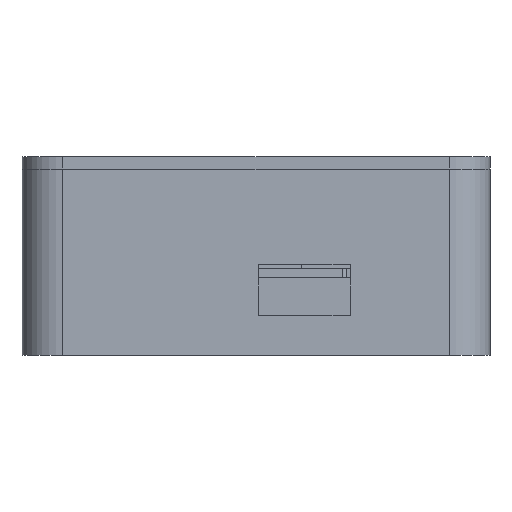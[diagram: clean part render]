
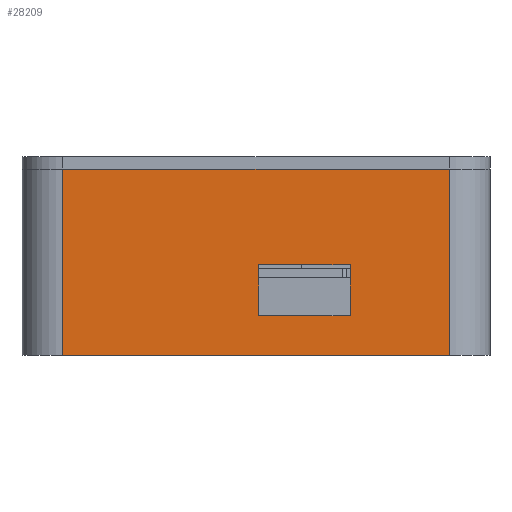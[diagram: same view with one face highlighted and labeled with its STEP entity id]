
A CAD part, front view. The second image highlights one B-rep face of the part: STEP entity #28209.
In plain terms, the highlighted planar face has unit normal (0, -1, 0).
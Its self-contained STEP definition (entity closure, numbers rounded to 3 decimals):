
#74 = PLANE('',#75);
#75 = AXIS2_PLACEMENT_3D('',#76,#77,#78);
#76 = CARTESIAN_POINT('',(-46.,-56.,36.6));
#77 = DIRECTION('',(0.,0.,1.));
#78 = DIRECTION('',(1.,0.,0.));
#102 = CYLINDRICAL_SURFACE('',#103,8.);
#103 = AXIS2_PLACEMENT_3D('',#104,#105,#106);
#104 = CARTESIAN_POINT('',(-38.,-48.,0.));
#105 = DIRECTION('',(0.,0.,1.));
#106 = DIRECTION('',(-1.,-0.,0.));
#130 = PLANE('',#131);
#131 = AXIS2_PLACEMENT_3D('',#132,#133,#134);
#132 = CARTESIAN_POINT('',(-46.,-56.,0.));
#133 = DIRECTION('',(0.,0.,1.));
#134 = DIRECTION('',(1.,0.,0.));
#1727 = VERTEX_POINT('',#1728);
#1728 = CARTESIAN_POINT('',(-38.,-56.,36.6));
#1750 = EDGE_CURVE('',#1727,#1751,#1753,.T.);
#1751 = VERTEX_POINT('',#1752);
#1752 = CARTESIAN_POINT('',(38.,-56.,36.6));
#1753 = SURFACE_CURVE('',#1754,(#1758,#1765),.PCURVE_S1.);
#1754 = LINE('',#1755,#1756);
#1755 = CARTESIAN_POINT('',(-46.,-56.,36.6));
#1756 = VECTOR('',#1757,1.);
#1757 = DIRECTION('',(1.,0.,0.));
#1758 = PCURVE('',#74,#1759);
#1759 = DEFINITIONAL_REPRESENTATION('',(#1760),#1764);
#1760 = LINE('',#1761,#1762);
#1761 = CARTESIAN_POINT('',(0.,0.));
#1762 = VECTOR('',#1763,1.);
#1763 = DIRECTION('',(1.,0.));
#1764 = ( GEOMETRIC_REPRESENTATION_CONTEXT(2) 
PARAMETRIC_REPRESENTATION_CONTEXT() REPRESENTATION_CONTEXT('2D SPACE',''
  ) );
#1765 = PCURVE('',#1766,#1771);
#1766 = PLANE('',#1767);
#1767 = AXIS2_PLACEMENT_3D('',#1768,#1769,#1770);
#1768 = CARTESIAN_POINT('',(-46.,-56.,0.));
#1769 = DIRECTION('',(0.,1.,0.));
#1770 = DIRECTION('',(0.,0.,1.));
#1771 = DEFINITIONAL_REPRESENTATION('',(#1772),#1776);
#1772 = LINE('',#1773,#1774);
#1773 = CARTESIAN_POINT('',(36.6,0.));
#1774 = VECTOR('',#1775,1.);
#1775 = DIRECTION('',(0.,1.));
#1776 = ( GEOMETRIC_REPRESENTATION_CONTEXT(2) 
PARAMETRIC_REPRESENTATION_CONTEXT() REPRESENTATION_CONTEXT('2D SPACE',''
  ) );
#1799 = CYLINDRICAL_SURFACE('',#1800,8.);
#1800 = AXIS2_PLACEMENT_3D('',#1801,#1802,#1803);
#1801 = CARTESIAN_POINT('',(38.,-48.,0.));
#1802 = DIRECTION('',(0.,0.,1.));
#1803 = DIRECTION('',(1.,0.,-0.));
#2784 = VERTEX_POINT('',#2785);
#2785 = CARTESIAN_POINT('',(-38.,-56.,0.));
#2807 = EDGE_CURVE('',#2784,#1727,#2808,.T.);
#2808 = SURFACE_CURVE('',#2809,(#2813,#2820),.PCURVE_S1.);
#2809 = LINE('',#2810,#2811);
#2810 = CARTESIAN_POINT('',(-38.,-56.,0.));
#2811 = VECTOR('',#2812,1.);
#2812 = DIRECTION('',(0.,0.,1.));
#2813 = PCURVE('',#102,#2814);
#2814 = DEFINITIONAL_REPRESENTATION('',(#2815),#2819);
#2815 = LINE('',#2816,#2817);
#2816 = CARTESIAN_POINT('',(1.571,0.));
#2817 = VECTOR('',#2818,1.);
#2818 = DIRECTION('',(0.,1.));
#2819 = ( GEOMETRIC_REPRESENTATION_CONTEXT(2) 
PARAMETRIC_REPRESENTATION_CONTEXT() REPRESENTATION_CONTEXT('2D SPACE',''
  ) );
#2820 = PCURVE('',#1766,#2821);
#2821 = DEFINITIONAL_REPRESENTATION('',(#2822),#2826);
#2822 = LINE('',#2823,#2824);
#2823 = CARTESIAN_POINT('',(0.,8.));
#2824 = VECTOR('',#2825,1.);
#2825 = DIRECTION('',(1.,0.));
#2826 = ( GEOMETRIC_REPRESENTATION_CONTEXT(2) 
PARAMETRIC_REPRESENTATION_CONTEXT() REPRESENTATION_CONTEXT('2D SPACE',''
  ) );
#2889 = EDGE_CURVE('',#2784,#2890,#2892,.T.);
#2890 = VERTEX_POINT('',#2891);
#2891 = CARTESIAN_POINT('',(38.,-56.,0.));
#2892 = SURFACE_CURVE('',#2893,(#2897,#2904),.PCURVE_S1.);
#2893 = LINE('',#2894,#2895);
#2894 = CARTESIAN_POINT('',(-46.,-56.,0.));
#2895 = VECTOR('',#2896,1.);
#2896 = DIRECTION('',(1.,0.,0.));
#2897 = PCURVE('',#130,#2898);
#2898 = DEFINITIONAL_REPRESENTATION('',(#2899),#2903);
#2899 = LINE('',#2900,#2901);
#2900 = CARTESIAN_POINT('',(0.,0.));
#2901 = VECTOR('',#2902,1.);
#2902 = DIRECTION('',(1.,0.));
#2903 = ( GEOMETRIC_REPRESENTATION_CONTEXT(2) 
PARAMETRIC_REPRESENTATION_CONTEXT() REPRESENTATION_CONTEXT('2D SPACE',''
  ) );
#2904 = PCURVE('',#1766,#2905);
#2905 = DEFINITIONAL_REPRESENTATION('',(#2906),#2910);
#2906 = LINE('',#2907,#2908);
#2907 = CARTESIAN_POINT('',(0.,0.));
#2908 = VECTOR('',#2909,1.);
#2909 = DIRECTION('',(0.,1.));
#2910 = ( GEOMETRIC_REPRESENTATION_CONTEXT(2) 
PARAMETRIC_REPRESENTATION_CONTEXT() REPRESENTATION_CONTEXT('2D SPACE',''
  ) );
#28209 = ADVANCED_FACE('',(#28210,#28236),#1766,.F.);
#28210 = FACE_BOUND('',#28211,.F.);
#28211 = EDGE_LOOP('',(#28212,#28213,#28214,#28215));
#28212 = ORIENTED_EDGE('',*,*,#2889,.F.);
#28213 = ORIENTED_EDGE('',*,*,#2807,.T.);
#28214 = ORIENTED_EDGE('',*,*,#1750,.T.);
#28215 = ORIENTED_EDGE('',*,*,#28216,.F.);
#28216 = EDGE_CURVE('',#2890,#1751,#28217,.T.);
#28217 = SURFACE_CURVE('',#28218,(#28222,#28229),.PCURVE_S1.);
#28218 = LINE('',#28219,#28220);
#28219 = CARTESIAN_POINT('',(38.,-56.,0.));
#28220 = VECTOR('',#28221,1.);
#28221 = DIRECTION('',(0.,0.,1.));
#28222 = PCURVE('',#1766,#28223);
#28223 = DEFINITIONAL_REPRESENTATION('',(#28224),#28228);
#28224 = LINE('',#28225,#28226);
#28225 = CARTESIAN_POINT('',(0.,84.));
#28226 = VECTOR('',#28227,1.);
#28227 = DIRECTION('',(1.,0.));
#28228 = ( GEOMETRIC_REPRESENTATION_CONTEXT(2) 
PARAMETRIC_REPRESENTATION_CONTEXT() REPRESENTATION_CONTEXT('2D SPACE',''
  ) );
#28229 = PCURVE('',#1799,#28230);
#28230 = DEFINITIONAL_REPRESENTATION('',(#28231),#28235);
#28231 = LINE('',#28232,#28233);
#28232 = CARTESIAN_POINT('',(-1.571,0.));
#28233 = VECTOR('',#28234,1.);
#28234 = DIRECTION('',(-0.,1.));
#28235 = ( GEOMETRIC_REPRESENTATION_CONTEXT(2) 
PARAMETRIC_REPRESENTATION_CONTEXT() REPRESENTATION_CONTEXT('2D SPACE',''
  ) );
#28236 = FACE_BOUND('',#28237,.F.);
#28237 = EDGE_LOOP('',(#28238,#28266,#28292,#28318));
#28238 = ORIENTED_EDGE('',*,*,#28239,.F.);
#28239 = EDGE_CURVE('',#28240,#28242,#28244,.T.);
#28240 = VERTEX_POINT('',#28241);
#28241 = CARTESIAN_POINT('',(0.5,-56.,17.8));
#28242 = VERTEX_POINT('',#28243);
#28243 = CARTESIAN_POINT('',(18.5,-56.,17.8));
#28244 = SURFACE_CURVE('',#28245,(#28249,#28255),.PCURVE_S1.);
#28245 = LINE('',#28246,#28247);
#28246 = CARTESIAN_POINT('',(-22.75,-56.,17.8));
#28247 = VECTOR('',#28248,1.);
#28248 = DIRECTION('',(1.,0.,0.));
#28249 = PCURVE('',#1766,#28250);
#28250 = DEFINITIONAL_REPRESENTATION('',(#28251),#28254);
#28251 = B_SPLINE_CURVE_WITH_KNOTS('',1,(#28252,#28253),.UNSPECIFIED.,
  .F.,.F.,(2,2),(23.25,41.25),.PIECEWISE_BEZIER_KNOTS.);
#28252 = CARTESIAN_POINT('',(17.8,46.5));
#28253 = CARTESIAN_POINT('',(17.8,64.5));
#28254 = ( GEOMETRIC_REPRESENTATION_CONTEXT(2) 
PARAMETRIC_REPRESENTATION_CONTEXT() REPRESENTATION_CONTEXT('2D SPACE',''
  ) );
#28255 = PCURVE('',#28256,#28261);
#28256 = PLANE('',#28257);
#28257 = AXIS2_PLACEMENT_3D('',#28258,#28259,#28260);
#28258 = CARTESIAN_POINT('',(0.5,-57.,17.8));
#28259 = DIRECTION('',(0.,0.,1.));
#28260 = DIRECTION('',(1.,0.,0.));
#28261 = DEFINITIONAL_REPRESENTATION('',(#28262),#28265);
#28262 = B_SPLINE_CURVE_WITH_KNOTS('',1,(#28263,#28264),.UNSPECIFIED.,
  .F.,.F.,(2,2),(23.25,41.25),.PIECEWISE_BEZIER_KNOTS.);
#28263 = CARTESIAN_POINT('',(0.,1.));
#28264 = CARTESIAN_POINT('',(18.,1.));
#28265 = ( GEOMETRIC_REPRESENTATION_CONTEXT(2) 
PARAMETRIC_REPRESENTATION_CONTEXT() REPRESENTATION_CONTEXT('2D SPACE',''
  ) );
#28266 = ORIENTED_EDGE('',*,*,#28267,.T.);
#28267 = EDGE_CURVE('',#28240,#28268,#28270,.T.);
#28268 = VERTEX_POINT('',#28269);
#28269 = CARTESIAN_POINT('',(0.5,-56.,7.8));
#28270 = SURFACE_CURVE('',#28271,(#28275,#28281),.PCURVE_S1.);
#28271 = LINE('',#28272,#28273);
#28272 = CARTESIAN_POINT('',(0.5,-56.,3.9));
#28273 = VECTOR('',#28274,1.);
#28274 = DIRECTION('',(0.,0.,-1.));
#28275 = PCURVE('',#1766,#28276);
#28276 = DEFINITIONAL_REPRESENTATION('',(#28277),#28280);
#28277 = B_SPLINE_CURVE_WITH_KNOTS('',1,(#28278,#28279),.UNSPECIFIED.,
  .F.,.F.,(2,2),(-13.9,-3.9),.PIECEWISE_BEZIER_KNOTS.);
#28278 = CARTESIAN_POINT('',(17.8,46.5));
#28279 = CARTESIAN_POINT('',(7.8,46.5));
#28280 = ( GEOMETRIC_REPRESENTATION_CONTEXT(2) 
PARAMETRIC_REPRESENTATION_CONTEXT() REPRESENTATION_CONTEXT('2D SPACE',''
  ) );
#28281 = PCURVE('',#28282,#28287);
#28282 = PLANE('',#28283);
#28283 = AXIS2_PLACEMENT_3D('',#28284,#28285,#28286);
#28284 = CARTESIAN_POINT('',(0.5,-57.,7.8));
#28285 = DIRECTION('',(1.,0.,0.));
#28286 = DIRECTION('',(0.,0.,1.));
#28287 = DEFINITIONAL_REPRESENTATION('',(#28288),#28291);
#28288 = B_SPLINE_CURVE_WITH_KNOTS('',1,(#28289,#28290),.UNSPECIFIED.,
  .F.,.F.,(2,2),(-13.9,-3.9),.PIECEWISE_BEZIER_KNOTS.);
#28289 = CARTESIAN_POINT('',(10.,-1.));
#28290 = CARTESIAN_POINT('',(0.,-1.));
#28291 = ( GEOMETRIC_REPRESENTATION_CONTEXT(2) 
PARAMETRIC_REPRESENTATION_CONTEXT() REPRESENTATION_CONTEXT('2D SPACE',''
  ) );
#28292 = ORIENTED_EDGE('',*,*,#28293,.T.);
#28293 = EDGE_CURVE('',#28268,#28294,#28296,.T.);
#28294 = VERTEX_POINT('',#28295);
#28295 = CARTESIAN_POINT('',(18.5,-56.,7.8));
#28296 = SURFACE_CURVE('',#28297,(#28301,#28307),.PCURVE_S1.);
#28297 = LINE('',#28298,#28299);
#28298 = CARTESIAN_POINT('',(-22.75,-56.,7.8));
#28299 = VECTOR('',#28300,1.);
#28300 = DIRECTION('',(1.,0.,0.));
#28301 = PCURVE('',#1766,#28302);
#28302 = DEFINITIONAL_REPRESENTATION('',(#28303),#28306);
#28303 = B_SPLINE_CURVE_WITH_KNOTS('',1,(#28304,#28305),.UNSPECIFIED.,
  .F.,.F.,(2,2),(23.25,41.25),.PIECEWISE_BEZIER_KNOTS.);
#28304 = CARTESIAN_POINT('',(7.8,46.5));
#28305 = CARTESIAN_POINT('',(7.8,64.5));
#28306 = ( GEOMETRIC_REPRESENTATION_CONTEXT(2) 
PARAMETRIC_REPRESENTATION_CONTEXT() REPRESENTATION_CONTEXT('2D SPACE',''
  ) );
#28307 = PCURVE('',#28308,#28313);
#28308 = PLANE('',#28309);
#28309 = AXIS2_PLACEMENT_3D('',#28310,#28311,#28312);
#28310 = CARTESIAN_POINT('',(0.5,-57.,7.8));
#28311 = DIRECTION('',(0.,0.,1.));
#28312 = DIRECTION('',(1.,0.,0.));
#28313 = DEFINITIONAL_REPRESENTATION('',(#28314),#28317);
#28314 = B_SPLINE_CURVE_WITH_KNOTS('',1,(#28315,#28316),.UNSPECIFIED.,
  .F.,.F.,(2,2),(23.25,41.25),.PIECEWISE_BEZIER_KNOTS.);
#28315 = CARTESIAN_POINT('',(0.,1.));
#28316 = CARTESIAN_POINT('',(18.,1.));
#28317 = ( GEOMETRIC_REPRESENTATION_CONTEXT(2) 
PARAMETRIC_REPRESENTATION_CONTEXT() REPRESENTATION_CONTEXT('2D SPACE',''
  ) );
#28318 = ORIENTED_EDGE('',*,*,#28319,.F.);
#28319 = EDGE_CURVE('',#28242,#28294,#28320,.T.);
#28320 = SURFACE_CURVE('',#28321,(#28325,#28331),.PCURVE_S1.);
#28321 = LINE('',#28322,#28323);
#28322 = CARTESIAN_POINT('',(18.5,-56.,3.9));
#28323 = VECTOR('',#28324,1.);
#28324 = DIRECTION('',(0.,0.,-1.));
#28325 = PCURVE('',#1766,#28326);
#28326 = DEFINITIONAL_REPRESENTATION('',(#28327),#28330);
#28327 = B_SPLINE_CURVE_WITH_KNOTS('',1,(#28328,#28329),.UNSPECIFIED.,
  .F.,.F.,(2,2),(-13.9,-3.9),.PIECEWISE_BEZIER_KNOTS.);
#28328 = CARTESIAN_POINT('',(17.8,64.5));
#28329 = CARTESIAN_POINT('',(7.8,64.5));
#28330 = ( GEOMETRIC_REPRESENTATION_CONTEXT(2) 
PARAMETRIC_REPRESENTATION_CONTEXT() REPRESENTATION_CONTEXT('2D SPACE',''
  ) );
#28331 = PCURVE('',#28332,#28337);
#28332 = PLANE('',#28333);
#28333 = AXIS2_PLACEMENT_3D('',#28334,#28335,#28336);
#28334 = CARTESIAN_POINT('',(18.5,-57.,7.8));
#28335 = DIRECTION('',(1.,0.,0.));
#28336 = DIRECTION('',(0.,0.,1.));
#28337 = DEFINITIONAL_REPRESENTATION('',(#28338),#28341);
#28338 = B_SPLINE_CURVE_WITH_KNOTS('',1,(#28339,#28340),.UNSPECIFIED.,
  .F.,.F.,(2,2),(-13.9,-3.9),.PIECEWISE_BEZIER_KNOTS.);
#28339 = CARTESIAN_POINT('',(10.,-1.));
#28340 = CARTESIAN_POINT('',(0.,-1.));
#28341 = ( GEOMETRIC_REPRESENTATION_CONTEXT(2) 
PARAMETRIC_REPRESENTATION_CONTEXT() REPRESENTATION_CONTEXT('2D SPACE',''
  ) );
